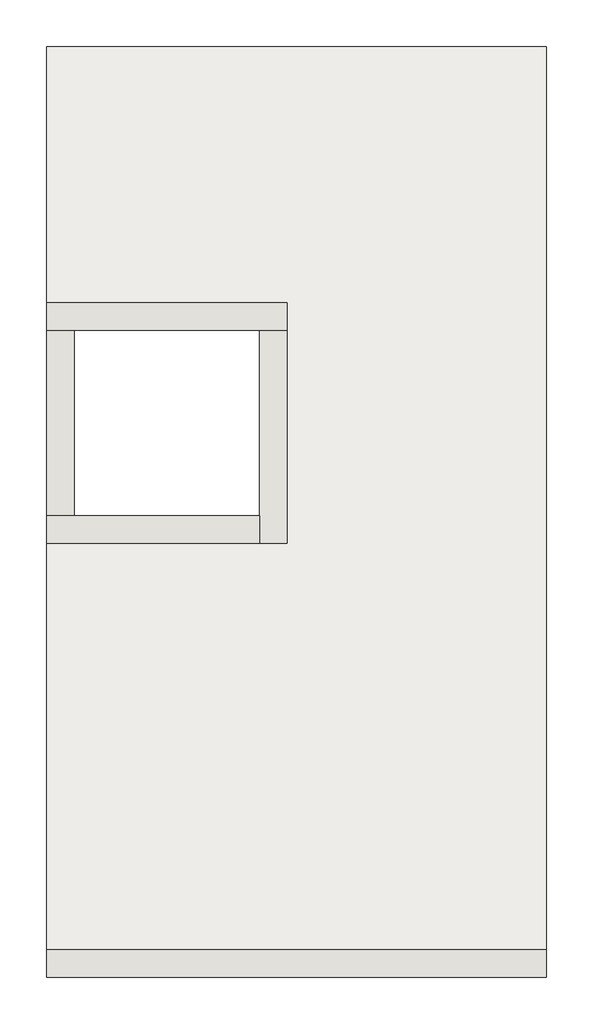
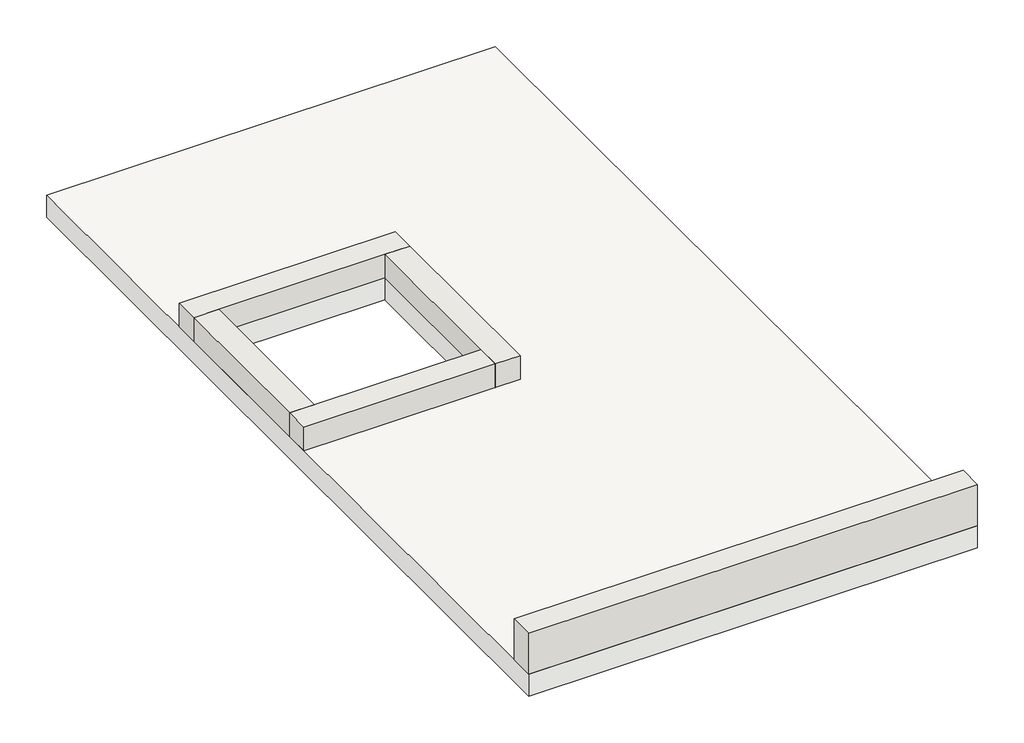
# One storey: 5 walls, 1 slab.
"""IFC4 building model written with IfcOpenShell, lengths in millimetres."""

from ifc_helpers import new_model, si_unit, frame, origin, place, context, project, spatial, polyline, outline, extrude, faceted_brep, element, save

model = new_model("IFC4")

# Units and contexts
model_context = context("Model", 3, world=origin())
ifc_project = project(units=[si_unit("LENGTHUNIT", "METRE", prefix="MILLI")], contexts=[model_context])

# Site, building, storey
site = spatial("IfcSite", under=ifc_project)
building = spatial("IfcBuilding", under=site)
storey = spatial("IfcBuildingStorey", under=building, Name="4ème niveau", Elevation=5270.0)

# Slab
placement = place(None, origin())
element("IfcSlab", 1, ObjectType="Générique  140 mm", at=placement, inside=storey, context=model_context, shape_type="SweptSolid", body=[
    extrude(outline(polyline([(-1030.0228675, -5933.2888028), (-1030.0228675, -908.2888028), (1669.9771325, -908.2888028), (1669.9771325, -5933.2888028), (-1030.0228675, -5933.2888028)]), holes=[polyline([(119.9771325, -2440.7888028), (-880.0228675, -2440.7888028), (-880.0228675, -3440.7888028), (119.9771325, -3440.7888028), (119.9771325, -2440.7888028)])]), frame((0.0, 0.0, 5130.0), z_axis=(0.0, 0.0, 1.0), x_axis=(1.0, 0.0, 0.0)), (0.0, 0.0, 1.0), 140.0),
])

# Walls
element("IfcWall", 2, ObjectType="Générique - 150 mm", at=placement, inside=storey, context=model_context, shape_type="SweptSolid", body=[
    extrude(outline(polyline([(-1030.0228675, -5783.2888028), (1669.9771325, -5783.2888028), (1669.9771325, -5933.2888028), (-1030.0228675, -5933.2888028), (-1030.0228675, -5783.2888028)])), frame((0.0, 0.0, 5270.0), z_axis=(0.0, 0.0, 1.0), x_axis=(1.0, 0.0, 0.0)), (0.0, 0.0, 1.0), 260.0),
])
element("IfcWall", 3, ObjectType="Générique - 150 mm", at=placement, inside=storey, context=model_context, shape_type="Brep", body=[
    faceted_brep([(-1030.0228675, -2440.7888028, 5270.0), (-880.0228675, -2440.7888028, 5270.0), (119.9771325, -2440.7888028, 5270.0), (269.9771325, -2440.7888028, 5270.0), (269.9771325, -2440.7888028, 5420.0), (119.9771325, -2440.7888028, 5420.0), (-880.0228675, -2440.7888028, 5420.0), (-1030.0228675, -2440.7888028, 5420.0), (-1030.0228675, -2290.7888028, 5270.0), (-1030.0228675, -2290.7888028, 5420.0), (269.9771325, -2290.7888028, 5420.0), (269.9771325, -2290.7888028, 5270.0)], [[[0, 1, 2, 3, 4, 5, 6, 7]], [[8, 9, 10, 11]], [[3, 2, 1, 0, 8, 11]], [[7, 6, 5, 4, 10, 9]], [[0, 7, 9, 8]], [[4, 3, 11, 10]]]),
])
element("IfcWall", 4, ObjectType="Générique - 150 mm", at=placement, inside=storey, context=model_context, shape_type="Brep", body=[
    faceted_brep([(119.9771325, -2440.7888028, 5270.0), (119.9771325, -3440.7888028, 5270.0), (119.9771325, -3590.7888028, 5270.0), (119.9771325, -3590.7888028, 5420.0), (119.9771325, -3440.7888028, 5420.0), (119.9771325, -2440.7888028, 5420.0), (269.9771325, -2440.7888028, 5270.0), (269.9771325, -2440.7888028, 5420.0), (269.9771325, -3590.7888028, 5420.0), (269.9771325, -3590.7888028, 5270.0)], [[[0, 1, 2, 3, 4, 5]], [[6, 7, 8, 9]], [[2, 1, 0, 6, 9]], [[5, 4, 3, 8, 7]], [[0, 5, 7, 6]], [[3, 2, 9, 8]]]),
])
element("IfcWall", 5, ObjectType="Générique - 150 mm", at=placement, inside=storey, context=model_context, shape_type="Brep", body=[
    faceted_brep([(119.9771325, -3440.7888028, 5270.0), (-880.0228675, -3440.7888028, 5270.0), (-1030.0228675, -3440.7888028, 5270.0), (-1030.0228675, -3440.7888028, 5420.0), (-880.0228675, -3440.7888028, 5420.0), (119.9771325, -3440.7888028, 5420.0), (119.9771325, -3590.7888028, 5270.0), (119.9771325, -3590.7888028, 5420.0), (-1030.0228675, -3590.7888028, 5420.0), (-1030.0228675, -3590.7888028, 5270.0)], [[[0, 1, 2, 3, 4, 5]], [[6, 7, 8, 9]], [[2, 1, 0, 6, 9]], [[5, 4, 3, 8, 7]], [[0, 5, 7, 6]], [[3, 2, 9, 8]]]),
])
element("IfcWall", 6, ObjectType="Générique - 150 mm", at=placement, inside=storey, context=model_context, shape_type="SweptSolid", body=[
    extrude(outline(polyline([(-880.0228675, -2440.7888028), (-880.0228675, -3440.7888028), (-1030.0228675, -3440.7888028), (-1030.0228675, -2440.7888028), (-880.0228675, -2440.7888028)])), frame((0.0, 0.0, 5270.0), z_axis=(0.0, 0.0, 1.0), x_axis=(1.0, 0.0, 0.0)), (0.0, 0.0, 1.0), 150.0),
])

save(model, "model.ifc")
